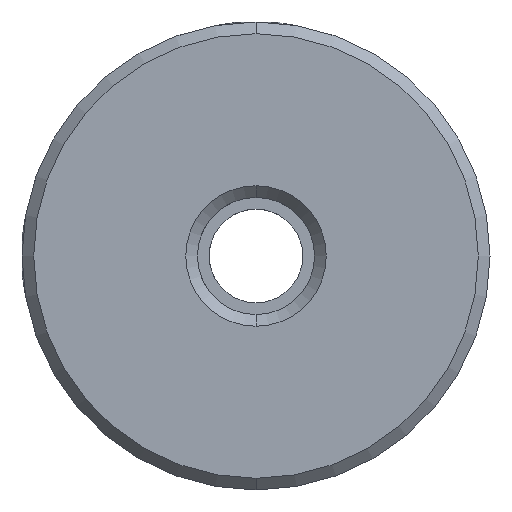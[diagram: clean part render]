
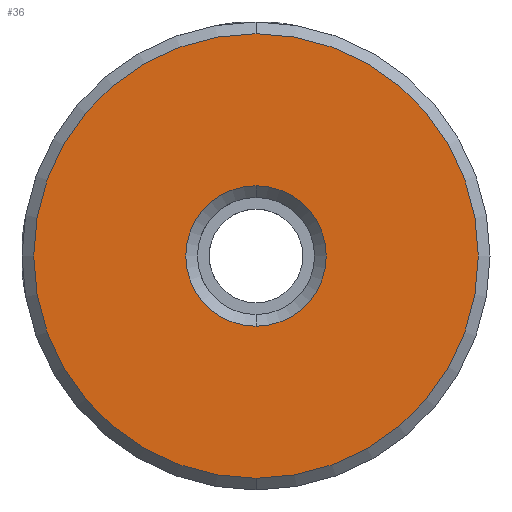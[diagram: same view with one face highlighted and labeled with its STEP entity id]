
A CAD part, front view. The second image highlights one B-rep face of the part: STEP entity #36.
In plain terms, the highlighted planar face has unit normal (0, -1, 0).
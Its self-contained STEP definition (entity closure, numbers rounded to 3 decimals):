
#19 = DIRECTION ( 'NONE',  ( 0., -1., 0. ) ) ;
#36 = ADVANCED_FACE ( 'NONE', ( #2351, #2684 ), #2130, .F. ) ;
#209 = EDGE_CURVE ( 'NONE', #2541, #2296, #2505, .T. ) ;
#217 = CARTESIAN_POINT ( 'NONE',  ( -10.188, -0.277, 0.046 ) ) ;
#282 = CARTESIAN_POINT ( 'NONE',  ( -10.188, -0.277, -9.454 ) ) ;
#443 = AXIS2_PLACEMENT_3D ( 'NONE', #1934, #19, #3394 ) ;
#584 = DIRECTION ( 'NONE',  ( 0., 0., 1. ) ) ;
#743 = DIRECTION ( 'NONE',  ( 0., -1., 0. ) ) ;
#789 = EDGE_CURVE ( 'NONE', #2296, #2541, #2303, .T. ) ;
#823 = AXIS2_PLACEMENT_3D ( 'NONE', #217, #743, #1342 ) ;
#857 = CARTESIAN_POINT ( 'NONE',  ( -10.188, -0.277, -2.954 ) ) ;
#901 = CIRCLE ( 'NONE', #3565, 3. ) ;
#995 = ORIENTED_EDGE ( 'NONE', *, *, #789, .T. ) ;
#1041 = EDGE_CURVE ( 'NONE', #1317, #1820, #1479, .T. ) ;
#1199 = ORIENTED_EDGE ( 'NONE', *, *, #209, .T. ) ;
#1317 = VERTEX_POINT ( 'NONE', #2409 ) ;
#1333 = DIRECTION ( 'NONE',  ( 0., 1., 0. ) ) ;
#1342 = DIRECTION ( 'NONE',  ( 0., 0., 1. ) ) ;
#1463 = CARTESIAN_POINT ( 'NONE',  ( -10.188, -0.277, 9.546 ) ) ;
#1479 = CIRCLE ( 'NONE', #3558, 3. ) ;
#1531 = ORIENTED_EDGE ( 'NONE', *, *, #1834, .T. ) ;
#1589 = CARTESIAN_POINT ( 'NONE',  ( -10.188, -0.277, 0.046 ) ) ;
#1820 = VERTEX_POINT ( 'NONE', #857 ) ;
#1834 = EDGE_CURVE ( 'NONE', #1820, #1317, #901, .T. ) ;
#1844 = DIRECTION ( 'NONE',  ( 0., 0., 1. ) ) ;
#1934 = CARTESIAN_POINT ( 'NONE',  ( -10.188, -0.277, 0.046 ) ) ;
#1945 = CARTESIAN_POINT ( 'NONE',  ( -10.188, -0.277, 0.046 ) ) ;
#2130 = PLANE ( 'NONE',  #2266 ) ;
#2266 = AXIS2_PLACEMENT_3D ( 'NONE', #2911, #3523, #3220 ) ;
#2296 = VERTEX_POINT ( 'NONE', #1463 ) ;
#2303 = CIRCLE ( 'NONE', #823, 9.5 ) ;
#2351 = FACE_OUTER_BOUND ( 'NONE', #3223, .T. ) ;
#2409 = CARTESIAN_POINT ( 'NONE',  ( -10.188, -0.277, 3.046 ) ) ;
#2505 = CIRCLE ( 'NONE', #443, 9.5 ) ;
#2513 = EDGE_LOOP ( 'NONE', ( #1531, #2600 ) ) ;
#2541 = VERTEX_POINT ( 'NONE', #282 ) ;
#2600 = ORIENTED_EDGE ( 'NONE', *, *, #1041, .T. ) ;
#2684 = FACE_BOUND ( 'NONE', #2513, .T. ) ;
#2911 = CARTESIAN_POINT ( 'NONE',  ( -10.188, -0.277, 0.046 ) ) ;
#3220 = DIRECTION ( 'NONE',  ( 0., 0., 1. ) ) ;
#3223 = EDGE_LOOP ( 'NONE', ( #995, #1199 ) ) ;
#3394 = DIRECTION ( 'NONE',  ( 0., 0., 1. ) ) ;
#3422 = DIRECTION ( 'NONE',  ( 0., 1., 0. ) ) ;
#3523 = DIRECTION ( 'NONE',  ( 0., 1., 0. ) ) ;
#3558 = AXIS2_PLACEMENT_3D ( 'NONE', #1589, #1333, #1844 ) ;
#3565 = AXIS2_PLACEMENT_3D ( 'NONE', #1945, #3422, #584 ) ;
